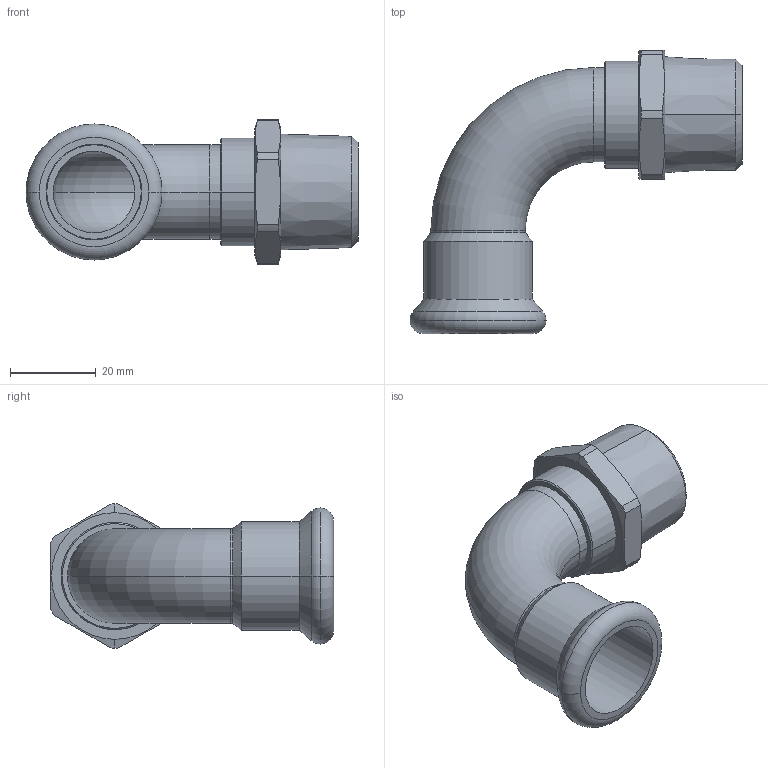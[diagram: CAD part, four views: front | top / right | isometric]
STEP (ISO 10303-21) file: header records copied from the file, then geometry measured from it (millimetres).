
FILE_DESCRIPTION(('CoCreate Modeling STEP Export'),'2;1');
FILE_NAME('C1430 22xR3-4.stp','2014-11-12T16:16:35',(''),(''),'CoCreate Modeling STEP processor for AP214 (Solid Model)','CoCreate Modeling 17.00A 17-Jun-2010 (C) Parametric Technology GmbH','');
FILE_SCHEMA(('AUTOMOTIVE_DESIGN { 1 0 10303 214 1 1 1 1 }'));
Length unit declared in the file: millimetre
Products named in the file (2): C1430_22xR3-4
Assembly tree (1 placements, depth 2):
  C1430_22xR3-4
    C1430_22xR3-4
Bounding box: 77.35 x 66 x 33.6 mm (x, y, z)
Volume: 17175.4 mm3; surface area: 15463.1 mm2
Topology: 1 solids, 1 shells, 60 faces, 145 edges, 93 vertices
Faces by surface type: cylinder 24, cone 14, plane 14, torus 8
Entity records: 2073 total; most frequent: CARTESIAN_POINT 810, ORIENTED_EDGE 290, DIRECTION 214, EDGE_CURVE 145, VERTEX_POINT 93, AXIS2_PLACEMENT_3D 85, EDGE_LOOP 68, FACE_OUTER_BOUND 60
